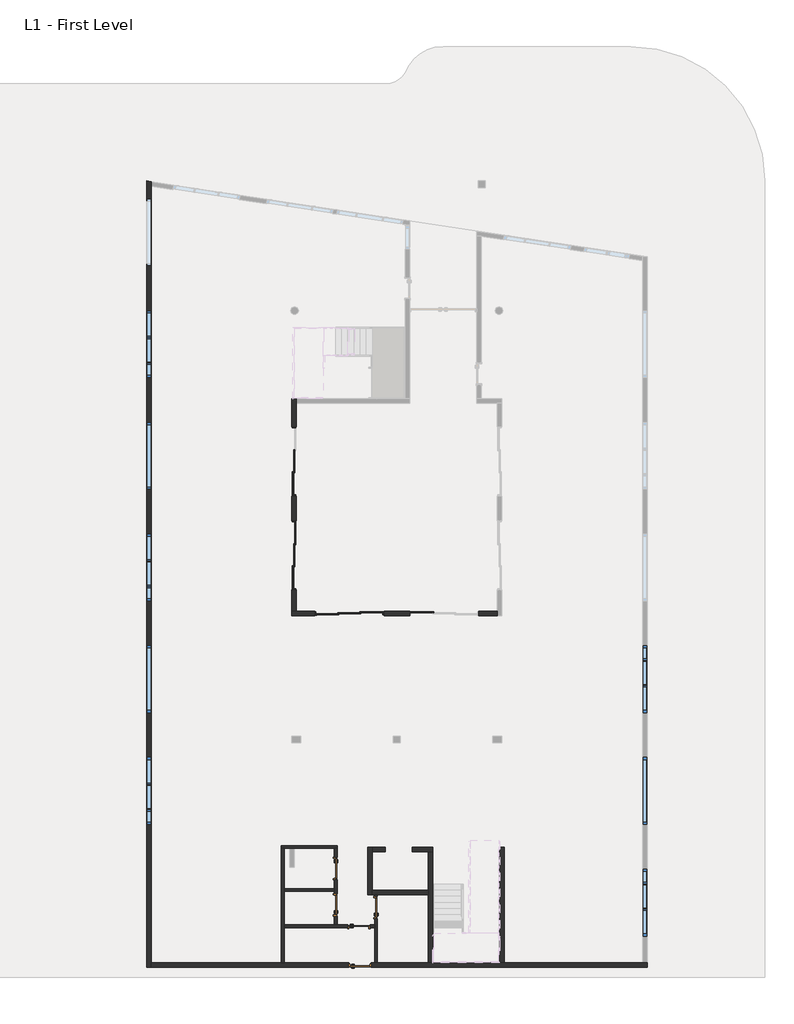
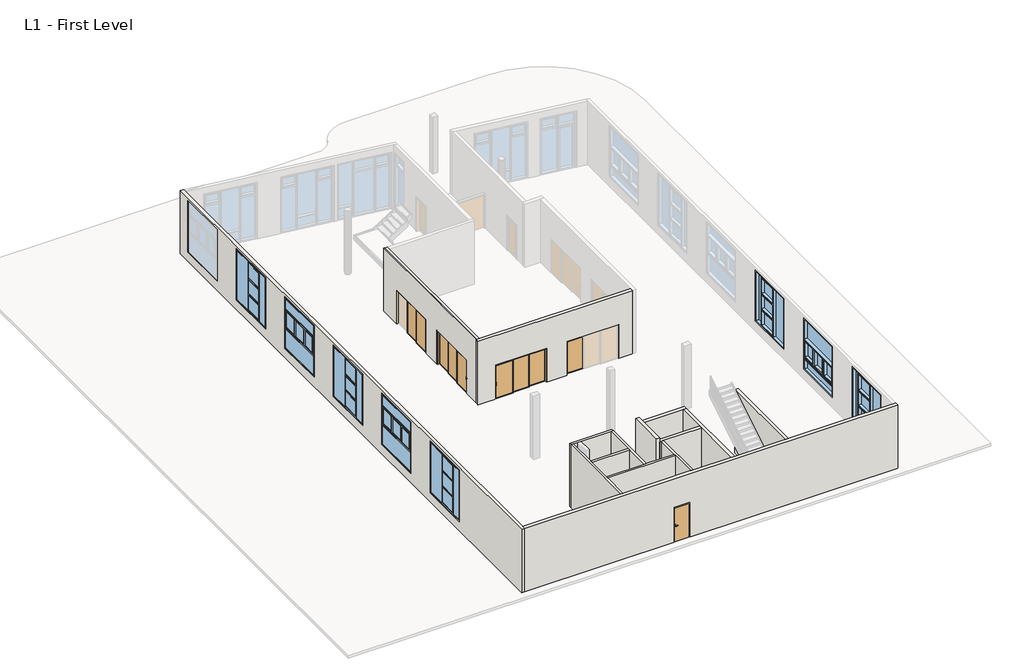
# One storey, part 1 of 4: 17 doors, 15 walls, 8 windows.
"""IFC4 building model written with IfcOpenShell, lengths in millimetres."""

from ifc_helpers import new_model, si_unit, frame, origin, place, context, project, spatial, polyline, outline, extrude, faceted_brep, transform, mapped, element, save
from components import door_7ad24d90, door_23af0c9a, door_4b82438d, door_733e7269, door_f3089612, panel_full_glazing_aluminum_5881cc99, panel_full_glazing_aluminum_9a99f02d, window_lateral_horizontal_lateral_windows_7aeb5992, window_lateral_horizontal_option2_lateral_windows_3115a414, window_lateral_vertical_lateral_windows_fbe11301

model = new_model("IFC4")

# Units and contexts
model_context = context("Model", 3, world=origin())
ifc_project = project(units=[si_unit("LENGTHUNIT", "METRE", prefix="MILLI")], contexts=[model_context])

# Site, building, storey
site = spatial("IfcSite", under=ifc_project)
building = spatial("IfcBuilding", under=site)
storey = spatial("IfcBuildingStorey", under=building, Name="L1 - First Level", Elevation=152.4)

# Doors
placement = place(None, origin())
door_shape = door_7ad24d90(model_context)
element("IfcDoor", 1, ObjectType="BP_DOOR_SP_Sliding_AluminumFrame-MultiPanels : 120\" x 84\" - 3 Panels", at=placement, inside=storey, context=model_context, shape_type="MappedRepresentation", body=[
    mapped(door_shape, transform((12319.0000088, 16560.7998844, 152.4), x_axis=(-1.0, 0.0, 0.0), y_axis=(0.0, -1.0, 0.0), z_axis=(0.0, 0.0, 1.0))),
])
door_2_shape = door_23af0c9a(model_context)
element("IfcDoor", 2, ObjectType="BP_DOOR_SP_Sliding_AluminumFrame-MultiPanels : 120\" x 84\" - 3 Panels", at=placement, inside=storey, context=model_context, shape_type="MappedRepresentation", body=[
    mapped(door_2_shape, transform((9804.4000088, 23469.5998757, 152.4), x_axis=(0.0, -1.0, 0.0), y_axis=(1.0, 0.0, 0.0), z_axis=(0.0, 0.0, 1.0))),
])
element("IfcDoor", 3, ObjectType="BP_DOOR_SP_Sliding_AluminumFrame-MultiPanels : 120\" x 84\" - 3 Panels", at=placement, inside=storey, context=model_context, shape_type="MappedRepresentation", body=[
    mapped(door_2_shape, transform((9804.4000088, 19202.3998844, 152.4), x_axis=(0.0, -1.0, 0.0), y_axis=(1.0, 0.0, 0.0), z_axis=(0.0, 0.0, 1.0))),
])
door_3_shape = door_4b82438d(model_context)
element("IfcDoor", 4, ObjectType="Door-Passage-Single-Flush : 36\" x 84\"", at=placement, inside=storey, context=model_context, shape_type="MappedRepresentation", body=[
    mapped(door_3_shape, transform((11690.3560672, 4953.0, 152.4), x_axis=(0.0, -1.0, 0.0), y_axis=(1.0, 0.0, 0.0), z_axis=(0.0, 0.0, 1.0))),
])
element("IfcDoor", 5, ObjectType="Door-Passage-Single-Flush : 36\" x 84\"", at=placement, inside=storey, context=model_context, shape_type="MappedRepresentation", body=[
    mapped(door_3_shape, transform((12750.8060672, 2317.75, 152.4), x_axis=(1.0, 0.0, 0.0), y_axis=(0.0, 1.0, 0.0), z_axis=(0.0, 0.0, 1.0))),
])
door_4_shape = door_733e7269(model_context)
element("IfcDoor", 6, ObjectType="Door-Passage-Single-Flush : 36\" x 84\"", at=placement, inside=storey, context=model_context, shape_type="MappedRepresentation", body=[
    mapped(door_4_shape, transform((11690.3560672, 3302.0, 152.4), x_axis=(0.0, 1.0, 0.0), y_axis=(-1.0, 0.0, 0.0), z_axis=(0.0, 0.0, 1.0))),
])
element("IfcDoor", 7, ObjectType="Door-Passage-Single-Flush : 36\" x 84\"", at=placement, inside=storey, context=model_context, shape_type="MappedRepresentation", body=[
    mapped(door_4_shape, transform((13519.1560672, 3175.0, 152.4), x_axis=(0.0, 1.0, 0.0), y_axis=(-1.0, 0.0, 0.0), z_axis=(0.0, 0.0, 1.0))),
])
door_5_shape = door_f3089612(model_context)
element("IfcDoor", 8, ObjectType="Door-Passage-Single-Flush : 36\" x 84\"", at=placement, inside=storey, context=model_context, shape_type="MappedRepresentation", body=[
    mapped(door_5_shape, transform((12801.6060672, 565.15, 152.4), x_axis=(1.0, 0.0, 0.0), y_axis=(0.0, 1.0, 0.0), z_axis=(0.0, 0.0, 1.0))),
])
panel_full_glazing_aluminum_shape = panel_full_glazing_aluminum_5881cc99(model_context)
element("IfcDoor", 9, ObjectType="BP_DR_SP_Panel-Single-Glass : Panel - Full Glazing Aluminum", at=placement, inside=storey, context=model_context, shape_type="MappedRepresentation", body=[
    mapped(panel_full_glazing_aluminum_shape, transform((13318.0666755, 16611.5998844, 152.4), x_axis=(-1.0, 0.0, 0.0), y_axis=(0.0, -1.0, 0.0), z_axis=(0.0, 0.0, 1.0))),
])
element("IfcDoor", 10, ObjectType="BP_DR_SP_Panel-Single-Glass : Panel - Full Glazing Aluminum", at=placement, inside=storey, context=model_context, shape_type="MappedRepresentation", body=[
    mapped(panel_full_glazing_aluminum_shape, transform((12319.0000088, 16560.7998844, 152.4), x_axis=(-1.0, 0.0, 0.0), y_axis=(0.0, -1.0, 0.0), z_axis=(0.0, 0.0, 1.0))),
])
element("IfcDoor", 11, ObjectType="BP_DR_SP_Panel-Single-Glass : Panel - Full Glazing Aluminum", at=placement, inside=storey, context=model_context, shape_type="MappedRepresentation", body=[
    mapped(panel_full_glazing_aluminum_shape, transform((11319.9333422, 16509.9998844, 152.4), x_axis=(-1.0, 0.0, 0.0), y_axis=(0.0, -1.0, 0.0), z_axis=(0.0, 0.0, 1.0))),
])
panel_full_glazing_aluminum_2_shape = panel_full_glazing_aluminum_9a99f02d(model_context)
element("IfcDoor", 12, ObjectType="BP_DR_SP_Panel-Single-Glass : Panel - Full Glazing Aluminum", at=placement, inside=storey, context=model_context, shape_type="MappedRepresentation", body=[
    mapped(panel_full_glazing_aluminum_2_shape, transform((9804.4000088, 23469.5998757, 152.4), x_axis=(0.0, -1.0, 0.0), y_axis=(1.0, 0.0, 0.0), z_axis=(0.0, 0.0, 1.0))),
])
element("IfcDoor", 13, ObjectType="BP_DR_SP_Panel-Single-Glass : Panel - Full Glazing Aluminum", at=placement, inside=storey, context=model_context, shape_type="MappedRepresentation", body=[
    mapped(panel_full_glazing_aluminum_2_shape, transform((9753.6000088, 22470.533209, 152.4), x_axis=(0.0, -1.0, 0.0), y_axis=(1.0, 0.0, 0.0), z_axis=(0.0, 0.0, 1.0))),
])
element("IfcDoor", 14, ObjectType="BP_DR_SP_Panel-Single-Glass : Panel - Full Glazing Aluminum", at=placement, inside=storey, context=model_context, shape_type="MappedRepresentation", body=[
    mapped(panel_full_glazing_aluminum_2_shape, transform((9855.2000088, 20201.4665511, 152.4), x_axis=(0.0, -1.0, 0.0), y_axis=(1.0, 0.0, 0.0), z_axis=(0.0, 0.0, 1.0))),
])
element("IfcDoor", 15, ObjectType="BP_DR_SP_Panel-Single-Glass : Panel - Full Glazing Aluminum", at=placement, inside=storey, context=model_context, shape_type="MappedRepresentation", body=[
    mapped(panel_full_glazing_aluminum_2_shape, transform((9804.4000088, 19202.3998844, 152.4), x_axis=(0.0, -1.0, 0.0), y_axis=(1.0, 0.0, 0.0), z_axis=(0.0, 0.0, 1.0))),
])
element("IfcDoor", 16, ObjectType="BP_DR_SP_Panel-Single-Glass : Panel - Full Glazing Aluminum", at=placement, inside=storey, context=model_context, shape_type="MappedRepresentation", body=[
    mapped(panel_full_glazing_aluminum_2_shape, transform((9753.6000088, 18203.3332178, 152.4), x_axis=(0.0, -1.0, 0.0), y_axis=(1.0, 0.0, 0.0), z_axis=(0.0, 0.0, 1.0))),
])
element("IfcDoor", 17, ObjectType="BP_DR_SP_Panel-Single-Glass : Panel - Full Glazing Aluminum", at=placement, inside=storey, context=model_context, shape_type="MappedRepresentation", body=[
    mapped(panel_full_glazing_aluminum_2_shape, transform((15637.9333245, 16611.5998844, 152.4), x_axis=(1.0, 0.0, 0.0), y_axis=(0.0, 1.0, 0.0), z_axis=(0.0, 0.0, 1.0))),
])

# Walls
element("IfcWall", 18, ObjectType="Project Wall", at=placement, inside=storey, context=model_context, shape_type="Brep", body=[
    faceted_brep([(3098.8, 36220.3999999, 152.4), (3098.8, 457.2, 152.4), (3098.8, 457.2, 4216.4), (3098.8, 36220.3999999, 4216.4), (3098.8, 32359.6, 4064.0), (3098.8, 32359.6, 762.0), (3098.8, 35407.6, 762.0), (3098.8, 35407.6, 4064.0), (3098.8, 27279.6, 4064.0), (3098.8, 27279.6, 762.0), (3098.8, 30327.6, 762.0), (3098.8, 30327.6, 4064.0), (3098.8, 22199.6, 4064.0), (3098.8, 22199.6, 762.0), (3098.8, 25247.6, 762.0), (3098.8, 25247.6, 4064.0), (3098.8, 17119.6, 4064.0), (3098.8, 17119.6, 762.0), (3098.8, 20167.6, 762.0), (3098.8, 20167.6, 4064.0), (3098.8, 12039.6, 4064.0), (3098.8, 12039.6, 762.0), (3098.8, 15087.6, 762.0), (3098.8, 15087.6, 4064.0), (3098.8, 6959.6, 4064.0), (3098.8, 6959.6, 762.0), (3098.8, 10007.6, 762.0), (3098.8, 10007.6, 4064.0), (3302.0, 457.2, 152.4), (3302.0, 660.4, 152.4), (3302.0, 35984.0297192, 152.4), (3302.0, 36189.5571428, 152.4), (3302.0, 36189.5571428, 4216.4), (3302.0, 35984.0297192, 4216.4), (3302.0, 660.4, 4216.4), (3302.0, 457.2, 4216.4), (3302.0, 32359.6, 762.0), (3302.0, 32359.6, 4064.0), (3302.0, 35407.6, 4064.0), (3302.0, 35407.6, 762.0), (3302.0, 27279.6, 762.0), (3302.0, 27279.6, 4064.0), (3302.0, 30327.6, 4064.0), (3302.0, 30327.6, 762.0), (3302.0, 22199.6, 762.0), (3302.0, 22199.6, 4064.0), (3302.0, 25247.6, 4064.0), (3302.0, 25247.6, 762.0), (3302.0, 17119.6, 762.0), (3302.0, 17119.6, 4064.0), (3302.0, 20167.6, 4064.0), (3302.0, 20167.6, 762.0), (3302.0, 12039.6, 762.0), (3302.0, 12039.6, 4064.0), (3302.0, 15087.6, 4064.0), (3302.0, 15087.6, 762.0), (3302.0, 6959.6, 762.0), (3302.0, 6959.6, 4064.0), (3302.0, 10007.6, 4064.0), (3302.0, 10007.6, 762.0)], [[[0, 1, 2, 3], [4, 5, 6, 7], [8, 9, 10, 11], [12, 13, 14, 15], [16, 17, 18, 19], [20, 21, 22, 23], [24, 25, 26, 27]], [[28, 29, 30, 31, 32, 33, 34, 35], [36, 37, 38, 39], [40, 41, 42, 43], [44, 45, 46, 47], [48, 49, 50, 51], [52, 53, 54, 55], [56, 57, 58, 59]], [[1, 0, 31, 30, 29, 28]], [[3, 2, 35, 34, 33, 32]], [[2, 1, 28, 35]], [[3, 32, 31, 0]], [[36, 5, 4, 37]], [[5, 36, 39, 6]], [[6, 39, 38, 7]], [[8, 41, 40, 9]], [[9, 40, 43, 10]], [[10, 43, 42, 11]], [[44, 13, 12, 45]], [[13, 44, 47, 14]], [[14, 47, 46, 15]], [[48, 17, 16, 49]], [[17, 48, 51, 18]], [[18, 51, 50, 19]], [[52, 21, 20, 53]], [[21, 52, 55, 22]], [[22, 55, 54, 23]], [[56, 25, 24, 57]], [[25, 56, 59, 26]], [[26, 59, 58, 27]], [[57, 24, 27, 58]], [[53, 20, 23, 54]], [[49, 16, 19, 50]], [[45, 12, 15, 46]], [[41, 8, 11, 42]], [[37, 4, 7, 38]]]),
])
element("IfcWall", 19, ObjectType="Project Wall", at=placement, inside=storey, context=model_context, shape_type="Brep", body=[
    faceted_brep([(25857.2, 457.2, 4216.4), (3302.0, 457.2, 4216.4), (3302.0, 457.2, 152.4), (12293.6060672, 457.2, 152.4), (12293.6060672, 457.2, 2387.6), (13309.6060672, 457.2, 2387.6), (13309.6060672, 457.2, 152.4), (25857.2, 457.2, 152.4), (3302.0, 660.4, 4216.4), (9220.2060672, 660.4, 4216.4), (9347.2060672, 660.4, 4216.4), (13462.0060672, 660.4, 4216.4), (13589.0060672, 660.4, 4216.4), (15900.4060672, 660.4, 4216.4), (16103.6060672, 660.4, 4216.4), (19151.6060672, 660.4, 4216.4), (19354.8060672, 660.4, 4216.4), (25654.0, 660.4, 4216.4), (25857.2, 660.4, 4216.4), (25857.2, 660.4, 152.4), (25654.0, 660.4, 152.4), (19354.8060672, 660.4, 152.4), (19151.6060672, 660.4, 152.4), (16103.6060672, 660.4, 152.4), (15900.4060672, 660.4, 152.4), (13589.0060672, 660.4, 152.4), (13462.0060672, 660.4, 152.4), (13309.6060672, 660.4, 152.4), (13309.6060672, 660.4, 2387.6), (12293.6060672, 660.4, 2387.6), (12293.6060672, 660.4, 152.4), (9347.2060672, 660.4, 152.4), (9220.2060672, 660.4, 152.4), (3302.0, 660.4, 152.4)], [[[0, 1, 2, 3, 4, 5, 6, 7]], [[8, 9, 10, 11, 12, 13, 14, 15, 16, 17, 18, 19, 20, 21, 22, 23, 24, 25, 26, 27, 28, 29, 30, 31, 32, 33]], [[2, 33, 32, 31, 30, 3]], [[19, 7, 6, 27, 26, 25, 24, 23, 22, 21, 20]], [[1, 0, 18, 17, 16, 15, 14, 13, 12, 11, 10, 9, 8]], [[2, 1, 8, 33]], [[0, 7, 19, 18]], [[5, 28, 27, 6]], [[28, 5, 4, 29]], [[29, 4, 3, 30]]]),
])
element("IfcWall", 20, ObjectType="Project Wall", at=placement, inside=storey, context=model_context, shape_type="Brep", body=[
    faceted_brep([(13157.2060672, 5918.2, 152.4), (13157.2060672, 3759.2, 152.4), (13157.2060672, 3759.2, 4470.4), (13157.2060672, 5918.2, 4470.4), (13360.4060672, 5918.2, 152.4), (13360.4060672, 5918.2, 4216.4), (13360.4060672, 5918.2, 4470.4), (13360.4060672, 3759.2, 4470.4), (13360.4060672, 3759.2, 4216.4), (13360.4060672, 3759.2, 152.4), (13360.4060672, 3962.4, 152.4), (13360.4060672, 5715.0, 152.4)], [[[0, 1, 2, 3]], [[4, 5, 6, 7, 8, 9, 10, 11]], [[1, 0, 4, 11, 10, 9]], [[3, 2, 7, 6]], [[2, 1, 9, 8, 7]], [[0, 3, 6, 5, 4]]]),
])
element("IfcWall", 21, ObjectType="Project Wall", at=placement, inside=storey, context=model_context, shape_type="Brep", body=[
    faceted_brep([(13360.4060672, 3759.2, 152.4), (13462.0060672, 3759.2, 152.4), (13589.0060672, 3759.2, 152.4), (15900.4060672, 3759.2, 152.4), (15900.4060672, 3759.2, 4216.4), (13589.0060672, 3759.2, 4216.4), (13462.0060672, 3759.2, 4216.4), (13360.4060672, 3759.2, 4216.4), (13360.4060672, 3962.4, 152.4), (13360.4060672, 3962.4, 4216.4), (15900.4060672, 3962.4, 4216.4), (15900.4060672, 3962.4, 152.4)], [[[0, 1, 2, 3, 4, 5, 6, 7]], [[8, 9, 10, 11]], [[3, 2, 1, 0, 8, 11]], [[0, 7, 9, 8]], [[4, 3, 11, 10]], [[7, 6, 5, 4, 10, 9]]]),
])
element("IfcWall", 22, ObjectType="Project Wall", at=placement, inside=storey, context=model_context, shape_type="Brep", body=[
    faceted_brep([(16103.6060672, 5715.0, 152.4), (16103.6060672, 5715.0, 4216.4), (15900.4060672, 5715.0, 4216.4), (13360.4060672, 5715.0, 4216.4), (13360.4060672, 5715.0, 152.4), (13945.0124837, 5715.0, 152.4), (13945.0124837, 5715.0, 2159.0), (15176.9124837, 5715.0, 2159.0), (15176.9124837, 5715.0, 152.4), (15900.4060672, 5715.0, 152.4), (13360.4060672, 5918.2, 4216.4), (16103.6060672, 5918.2, 4216.4), (16103.6060672, 5918.2, 152.4), (15176.9124837, 5918.2, 152.4), (15176.9124837, 5918.2, 2159.0), (13945.0124837, 5918.2, 2159.0), (13945.0124837, 5918.2, 152.4), (13360.4060672, 5918.2, 152.4)], [[[0, 1, 2, 3, 4, 5, 6, 7, 8, 9]], [[10, 11, 12, 13, 14, 15, 16, 17]], [[12, 0, 9, 8, 13]], [[4, 17, 16, 5]], [[1, 0, 12, 11]], [[11, 10, 3, 2, 1]], [[4, 3, 10, 17]], [[7, 14, 13, 8]], [[14, 7, 6, 15]], [[15, 6, 5, 16]]]),
])
element("IfcWall", 23, ObjectType="Project Wall", at=placement, inside=storey, context=model_context, shape_type="Brep", body=[
    faceted_brep([(15900.4060672, 5715.0, 152.4), (15900.4060672, 3962.4, 152.4), (15900.4060672, 3759.2, 152.4), (15900.4060672, 660.4, 152.4), (15900.4060672, 660.4, 4216.4), (15900.4060672, 3759.2, 4216.4), (15900.4060672, 3962.4, 4216.4), (15900.4060672, 5715.0, 4216.4), (16103.6060672, 5715.0, 152.4), (16103.6060672, 5715.0, 4216.4), (16103.6060672, 660.4, 4216.4), (16103.6060672, 660.4, 152.4)], [[[0, 1, 2, 3, 4, 5, 6, 7]], [[8, 9, 10, 11]], [[3, 2, 1, 0, 8, 11]], [[0, 7, 9, 8]], [[4, 3, 11, 10]], [[7, 6, 5, 4, 10, 9]]]),
])
element("IfcWall", 24, ObjectType="Project Wall", at=placement, inside=storey, context=model_context, shape_type="SweptSolid", body=[
    extrude(outline(polyline([(19151.6060672, 660.4), (19151.6060672, 5918.2), (19354.8060672, 5918.2), (19354.8060672, 660.4), (19151.6060672, 660.4)])), frame((0.0, 0.0, 152.4), z_axis=(0.0, 0.0, 1.0), x_axis=(1.0, 0.0, 0.0)), (0.0, 0.0, 1.0), 4064.0),
])
element("IfcWall", 25, ObjectType="Project Wall", at=placement, inside=storey, context=model_context, shape_type="Brep", body=[
    faceted_brep([(9702.8000088, 16662.3998844, 4216.4), (9906.0000088, 16662.3998844, 4216.4), (19050.0, 16662.3998844, 4216.4), (19050.0, 16662.3998844, 152.4), (18211.7999911, 16662.3998844, 152.4), (18211.7999911, 16662.3998844, 2336.8), (15062.1999911, 16662.3998844, 2336.8), (15062.1999911, 16662.3998844, 152.4), (13893.8000088, 16662.3998844, 152.4), (13893.8000088, 16662.3998844, 2336.8), (10744.2000088, 16662.3998844, 2336.8), (10744.2000088, 16662.3998844, 152.4), (9906.0000088, 16662.3998844, 152.4), (9702.8000088, 16662.3998844, 152.4), (19050.0, 16459.1998844, 4216.4), (9702.8000088, 16459.1998844, 4216.4), (9702.8000088, 16459.1998844, 152.4), (10744.2000088, 16459.1998844, 152.4), (10744.2000088, 16459.1998844, 2336.8), (13893.8000088, 16459.1998844, 2336.8), (13893.8000088, 16459.1998844, 152.4), (15062.1999911, 16459.1998844, 152.4), (15062.1999911, 16459.1998844, 2336.8), (18211.7999911, 16459.1998844, 2336.8), (18211.7999911, 16459.1998844, 152.4), (19050.0, 16459.1998844, 152.4)], [[[0, 1, 2, 3, 4, 5, 6, 7, 8, 9, 10, 11, 12, 13]], [[14, 15, 16, 17, 18, 19, 20, 21, 22, 23, 24, 25]], [[3, 25, 24, 4]], [[16, 13, 12, 11, 17]], [[20, 8, 7, 21]], [[2, 1, 0, 15, 14]], [[3, 2, 14, 25]], [[0, 13, 16, 15]], [[10, 18, 17, 11]], [[18, 10, 9, 19]], [[19, 9, 8, 20]], [[23, 5, 4, 24]], [[5, 23, 22, 6]], [[6, 22, 21, 7]]]),
])
element("IfcWall", 26, ObjectType="Project Wall", at=placement, inside=storey, context=model_context, shape_type="Brep", body=[
    faceted_brep([(9906.0000088, 26314.3998757, 4216.4), (9906.0000088, 26111.1998757, 4216.4), (9906.0000088, 16662.3998844, 4216.4), (9906.0000088, 16662.3998844, 152.4), (9906.0000088, 17627.5998844, 152.4), (9906.0000088, 17627.5998844, 2336.8), (9906.0000088, 20777.1998844, 2336.8), (9906.0000088, 20777.1998844, 152.4), (9906.0000088, 21894.7998757, 152.4), (9906.0000088, 21894.7998757, 2336.8), (9906.0000088, 25044.3998757, 2336.8), (9906.0000088, 25044.3998757, 152.4), (9906.0000088, 26111.1998757, 152.4), (9906.0000088, 26314.3998757, 152.4), (9702.8000088, 16662.3998844, 4216.4), (9702.8000088, 26314.3998757, 4216.4), (9702.8000088, 26314.3998757, 152.4), (9702.8000088, 25044.3998757, 152.4), (9702.8000088, 25044.3998757, 2336.8), (9702.8000088, 21894.7998757, 2336.8), (9702.8000088, 21894.7998757, 152.4), (9702.8000088, 20777.1998844, 152.4), (9702.8000088, 20777.1998844, 2336.8), (9702.8000088, 17627.5998844, 2336.8), (9702.8000088, 17627.5998844, 152.4), (9702.8000088, 16662.3998844, 152.4), (9753.6000088, 16662.3998844, 4216.4), (9753.6000088, 26314.3998757, 4216.4)], [[[0, 1, 2, 3, 4, 5, 6, 7, 8, 9, 10, 11, 12, 13]], [[14, 15, 16, 17, 18, 19, 20, 21, 22, 23, 24, 25]], [[3, 25, 24, 4]], [[16, 13, 12, 11, 17]], [[20, 8, 7, 21]], [[3, 2, 26, 14, 25]], [[0, 13, 16, 15, 27]], [[19, 9, 8, 20]], [[9, 19, 18, 10]], [[10, 18, 17, 11]], [[23, 5, 4, 24]], [[5, 23, 22, 6]], [[6, 22, 21, 7]], [[15, 14, 26, 27]], [[2, 1, 0, 27, 26]]]),
])
element("IfcWall", 27, ObjectType="Project Wall 5\"", at=placement, inside=storey, context=model_context, shape_type="Brep", body=[
    faceted_brep([(11760.2060672, 5994.4, 152.4), (9220.2060672, 5994.4, 152.4), (9220.2060672, 5994.4, 4216.4), (11760.2060672, 5994.4, 4216.4), (11760.2060672, 5867.4, 152.4), (11760.2060672, 5867.4, 4216.4), (11633.2060672, 5867.4, 4216.4), (9347.2060672, 5867.4, 4216.4), (9220.2060672, 5867.4, 4216.4), (9220.2060672, 5867.4, 152.4), (9347.2060672, 5867.4, 152.4), (11633.2060672, 5867.4, 152.4)], [[[0, 1, 2, 3]], [[4, 5, 6, 7, 8, 9, 10, 11]], [[1, 0, 4, 11, 10, 9]], [[2, 1, 9, 8]], [[0, 3, 5, 4]], [[3, 2, 8, 7, 6, 5]]]),
])
element("IfcWall", 28, ObjectType="Project Wall 5\"", at=placement, inside=storey, context=model_context, shape_type="Brep", body=[
    faceted_brep([(9220.2060672, 5867.4, 152.4), (9220.2060672, 660.4, 152.4), (9220.2060672, 660.4, 4216.4), (9220.2060672, 5867.4, 4216.4), (9347.2060672, 5867.4, 152.4), (9347.2060672, 5867.4, 4216.4), (9347.2060672, 4038.6, 4216.4), (9347.2060672, 3911.6, 4216.4), (9347.2060672, 2387.6, 4216.4), (9347.2060672, 2260.6, 4216.4), (9347.2060672, 660.4, 4216.4), (9347.2060672, 660.4, 152.4), (9347.2060672, 2260.6, 152.4), (9347.2060672, 2387.6, 152.4), (9347.2060672, 3911.6, 152.4), (9347.2060672, 4038.6, 152.4)], [[[0, 1, 2, 3]], [[4, 5, 6, 7, 8, 9, 10, 11, 12, 13, 14, 15]], [[1, 0, 4, 15, 14, 13, 12, 11]], [[0, 3, 5, 4]], [[2, 1, 11, 10]], [[3, 2, 10, 9, 8, 7, 6, 5]]]),
])
element("IfcWall", 29, ObjectType="Project Wall 5\"", at=placement, inside=storey, context=model_context, shape_type="Brep", body=[
    faceted_brep([(13462.0060672, 660.4, 152.4), (13462.0060672, 660.4, 4216.4), (13462.0060672, 2260.6, 4216.4), (13462.0060672, 2387.6, 4216.4), (13462.0060672, 3759.2, 4216.4), (13462.0060672, 3759.2, 152.4), (13462.0060672, 3683.0, 152.4), (13462.0060672, 3683.0, 2387.6), (13462.0060672, 2667.0, 2387.6), (13462.0060672, 2667.0, 152.4), (13462.0060672, 2387.6, 152.4), (13462.0060672, 2260.6, 152.4), (13589.0060672, 660.4, 4216.4), (13589.0060672, 660.4, 152.4), (13589.0060672, 2667.0, 152.4), (13589.0060672, 2667.0, 2387.6), (13589.0060672, 3683.0, 2387.6), (13589.0060672, 3683.0, 152.4), (13589.0060672, 3759.2, 152.4), (13589.0060672, 3759.2, 4216.4)], [[[0, 1, 2, 3, 4, 5, 6, 7, 8, 9, 10, 11]], [[12, 13, 14, 15, 16, 17, 18, 19]], [[13, 0, 11, 10, 9, 14]], [[5, 18, 17, 6]], [[1, 0, 13, 12]], [[5, 4, 19, 18]], [[16, 7, 6, 17]], [[7, 16, 15, 8]], [[8, 15, 14, 9]], [[4, 3, 2, 1, 12, 19]]]),
])
element("IfcWall", 30, ObjectType="Project Wall 5\"", at=placement, inside=storey, context=model_context, shape_type="Brep", body=[
    faceted_brep([(9347.2060672, 2387.6, 152.4), (9347.2060672, 2387.6, 4216.4), (11633.2060672, 2387.6, 4216.4), (11760.2060672, 2387.6, 4216.4), (13462.0060672, 2387.6, 4216.4), (13462.0060672, 2387.6, 152.4), (13258.8060672, 2387.6, 152.4), (13258.8060672, 2387.6, 2387.6), (12242.8060672, 2387.6, 2387.6), (12242.8060672, 2387.6, 152.4), (11760.2060672, 2387.6, 152.4), (11633.2060672, 2387.6, 152.4), (9347.2060672, 2260.6, 4216.4), (9347.2060672, 2260.6, 152.4), (12242.8060672, 2260.6, 152.4), (12242.8060672, 2260.6, 2387.6), (13258.8060672, 2260.6, 2387.6), (13258.8060672, 2260.6, 152.4), (13462.0060672, 2260.6, 152.4), (13462.0060672, 2260.6, 4216.4)], [[[0, 1, 2, 3, 4, 5, 6, 7, 8, 9, 10, 11]], [[12, 13, 14, 15, 16, 17, 18, 19]], [[5, 18, 17, 6]], [[13, 0, 11, 10, 9, 14]], [[1, 0, 13, 12]], [[5, 4, 19, 18]], [[16, 7, 6, 17]], [[7, 16, 15, 8]], [[8, 15, 14, 9]], [[4, 3, 2, 1, 12, 19]]]),
])
element("IfcWall", 31, ObjectType="Project Wall 5\"", at=placement, inside=storey, context=model_context, shape_type="Brep", body=[
    faceted_brep([(11633.2060672, 5867.4, 4216.4), (11633.2060672, 5867.4, 152.4), (11633.2060672, 5461.0, 152.4), (11633.2060672, 5461.0, 2387.6), (11633.2060672, 4445.0, 2387.6), (11633.2060672, 4445.0, 152.4), (11633.2060672, 4038.6, 152.4), (11633.2060672, 3911.6, 152.4), (11633.2060672, 3810.0, 152.4), (11633.2060672, 3810.0, 2387.6), (11633.2060672, 2794.0, 2387.6), (11633.2060672, 2794.0, 152.4), (11633.2060672, 2387.6, 152.4), (11633.2060672, 2387.6, 4216.4), (11633.2060672, 3911.6, 4216.4), (11633.2060672, 4038.6, 4216.4), (11760.2060672, 5867.4, 152.4), (11760.2060672, 5867.4, 4216.4), (11760.2060672, 2387.6, 4216.4), (11760.2060672, 2387.6, 152.4), (11760.2060672, 2794.0, 152.4), (11760.2060672, 2794.0, 2387.6), (11760.2060672, 3810.0, 2387.6), (11760.2060672, 3810.0, 152.4), (11760.2060672, 4445.0, 152.4), (11760.2060672, 4445.0, 2387.6), (11760.2060672, 5461.0, 2387.6), (11760.2060672, 5461.0, 152.4)], [[[0, 1, 2, 3, 4, 5, 6, 7, 8, 9, 10, 11, 12, 13, 14, 15]], [[16, 17, 18, 19, 20, 21, 22, 23, 24, 25, 26, 27]], [[1, 16, 27, 2]], [[19, 12, 11, 20]], [[5, 24, 23, 8, 7, 6]], [[1, 0, 17, 16]], [[13, 12, 19, 18]], [[4, 25, 24, 5]], [[25, 4, 3, 26]], [[26, 3, 2, 27]], [[22, 9, 8, 23]], [[9, 22, 21, 10]], [[10, 21, 20, 11]], [[0, 15, 14, 13, 18, 17]]]),
])
element("IfcWall", 32, ObjectType="Project Wall 5\"", at=placement, inside=storey, context=model_context, shape_type="SweptSolid", body=[
    extrude(outline(polyline([(9347.2060672, 4038.6), (11633.2060672, 4038.6), (11633.2060672, 3911.6), (9347.2060672, 3911.6), (9347.2060672, 4038.6)])), frame((0.0, 0.0, 152.4), z_axis=(0.0, 0.0, 1.0), x_axis=(1.0, 0.0, 0.0)), (0.0, 0.0, 1.0), 4064.0),
])

# Windows
window_lateral_horizontal_lateral_windows_shape = window_lateral_horizontal_lateral_windows_7aeb5992(model_context)
element("IfcWindow", 33, ObjectType="Window_Lateral_Horizontal : Lateral Windows", at=placement, inside=storey, context=model_context, shape_type="MappedRepresentation", body=[
    mapped(window_lateral_horizontal_lateral_windows_shape, transform((3200.4, 23723.6, -152.4), x_axis=(0.0, -1.0, 0.0), y_axis=(1.0, 0.0, 0.0), z_axis=(0.0, 0.0, 1.0))),
])
element("IfcWindow", 34, ObjectType="Window_Lateral_Horizontal : Lateral Windows", at=placement, inside=storey, context=model_context, shape_type="MappedRepresentation", body=[
    mapped(window_lateral_horizontal_lateral_windows_shape, transform((3200.4, 13563.6, -152.4), x_axis=(0.0, -1.0, 0.0), y_axis=(1.0, 0.0, 0.0), z_axis=(0.0, 0.0, 1.0))),
])
window_lateral_horizontal_option2_lateral_windows_shape = window_lateral_horizontal_option2_lateral_windows_3115a414(model_context)
element("IfcWindow", 35, ObjectType="Window_Lateral_Horizontal_Option2 : Lateral Windows", at=placement, inside=storey, context=model_context, shape_type="MappedRepresentation", body=[
    mapped(window_lateral_horizontal_option2_lateral_windows_shape, transform((25755.6, 8483.6, -152.4), x_axis=(0.0, 1.0, 0.0), y_axis=(-1.0, 0.0, 0.0), z_axis=(0.0, 0.0, 1.0))),
])
window_lateral_vertical_lateral_windows_shape = window_lateral_vertical_lateral_windows_fbe11301(model_context)
element("IfcWindow", 36, ObjectType="Window_Lateral_Vertical : Lateral Windows", at=placement, inside=storey, context=model_context, shape_type="MappedRepresentation", body=[
    mapped(window_lateral_vertical_lateral_windows_shape, transform((3200.4, 28803.6, -152.4), x_axis=(0.0, -1.0, 0.0), y_axis=(1.0, 0.0, 0.0), z_axis=(0.0, 0.0, 1.0))),
])
element("IfcWindow", 37, ObjectType="Window_Lateral_Vertical : Lateral Windows", at=placement, inside=storey, context=model_context, shape_type="MappedRepresentation", body=[
    mapped(window_lateral_vertical_lateral_windows_shape, transform((3200.4, 18643.6, -152.4), x_axis=(0.0, -1.0, 0.0), y_axis=(1.0, 0.0, 0.0), z_axis=(0.0, 0.0, 1.0))),
])
element("IfcWindow", 38, ObjectType="Window_Lateral_Vertical : Lateral Windows", at=placement, inside=storey, context=model_context, shape_type="MappedRepresentation", body=[
    mapped(window_lateral_vertical_lateral_windows_shape, transform((3200.4, 8483.6, -152.4), x_axis=(0.0, -1.0, 0.0), y_axis=(1.0, 0.0, 0.0), z_axis=(0.0, 0.0, 1.0))),
])
element("IfcWindow", 39, ObjectType="Window_Lateral_Vertical : Lateral Windows", at=placement, inside=storey, context=model_context, shape_type="MappedRepresentation", body=[
    mapped(window_lateral_vertical_lateral_windows_shape, transform((25755.6, 13563.6, -152.4), x_axis=(0.0, 1.0, 0.0), y_axis=(-1.0, 0.0, 0.0), z_axis=(0.0, 0.0, 1.0))),
])
element("IfcWindow", 40, ObjectType="Window_Lateral_Vertical : Lateral Windows", at=placement, inside=storey, context=model_context, shape_type="MappedRepresentation", body=[
    mapped(window_lateral_vertical_lateral_windows_shape, transform((25755.6, 3403.6, -152.4), x_axis=(0.0, 1.0, 0.0), y_axis=(-1.0, 0.0, 0.0), z_axis=(0.0, 0.0, 1.0))),
])

save(model, "model.ifc")
